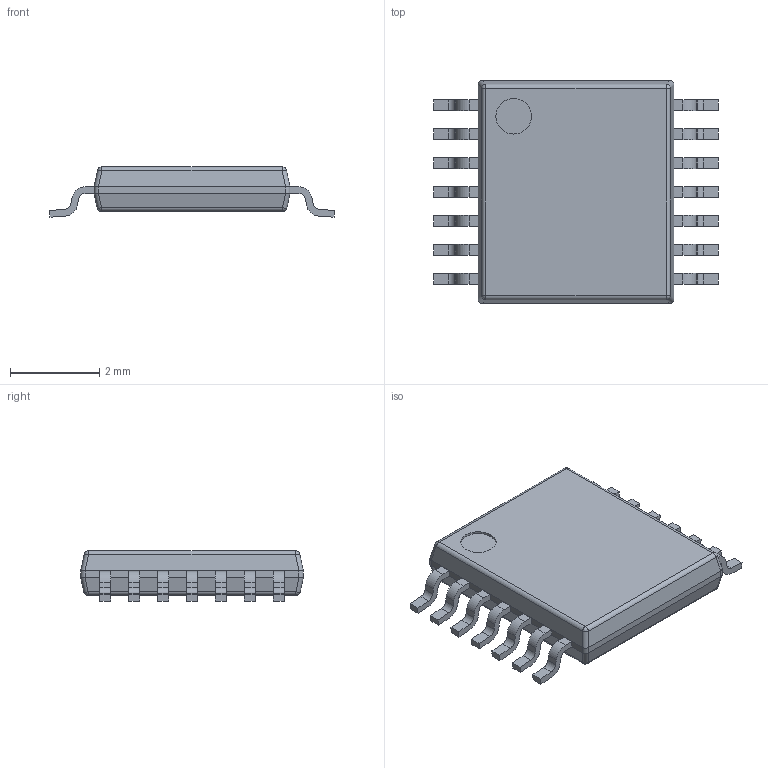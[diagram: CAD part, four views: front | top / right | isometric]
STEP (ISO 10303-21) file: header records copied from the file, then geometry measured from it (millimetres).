
FILE_DESCRIPTION((''),'2;1');
FILE_NAME('PWP0014K_ASM','2023-06-01T07:46:55',('a0412086'),(''),'CREO PARAMETRIC BY PTC INC, 2018500','CREO PARAMETRIC BY PTC INC, 2018500','');
FILE_SCHEMA(('CONFIG_CONTROL_DESIGN','SHAPE_APPEARANCE_LAYERS_GROUPS'));
Length unit declared in the file: millimetre
Products named in the file (5): PWP0014K_BODY; PWP0014K_LEAD; PWP0014K_PIN1; PWP0014K_DAP; PWP0014K_ASM
Assembly tree (17 placements, depth 2):
  PWP0014K_ASM
    PWP0014K_BODY
    PWP0014K_LEAD  x14
    PWP0014K_PIN1
    PWP0014K_DAP
Bounding box: 6.4 x 5 x 1.13 mm (x, y, z)
Volume: 21.9 mm3; surface area: 87.9 mm2
Topology: 16 solids, 16 shells, 300 faces, 774 edges, 508 vertices
Faces by surface type: plane 214, cylinder 78, sphere 8
Entity records: 4789 total; most frequent: CARTESIAN_POINT 742, ORIENTED_EDGE 612, DIRECTION 598, PRESENTATION_STYLE_ASSIGNMENT 309, STYLED_ITEM 309, CURVE_STYLE 306, EDGE_CURVE 306, VECTOR 246
